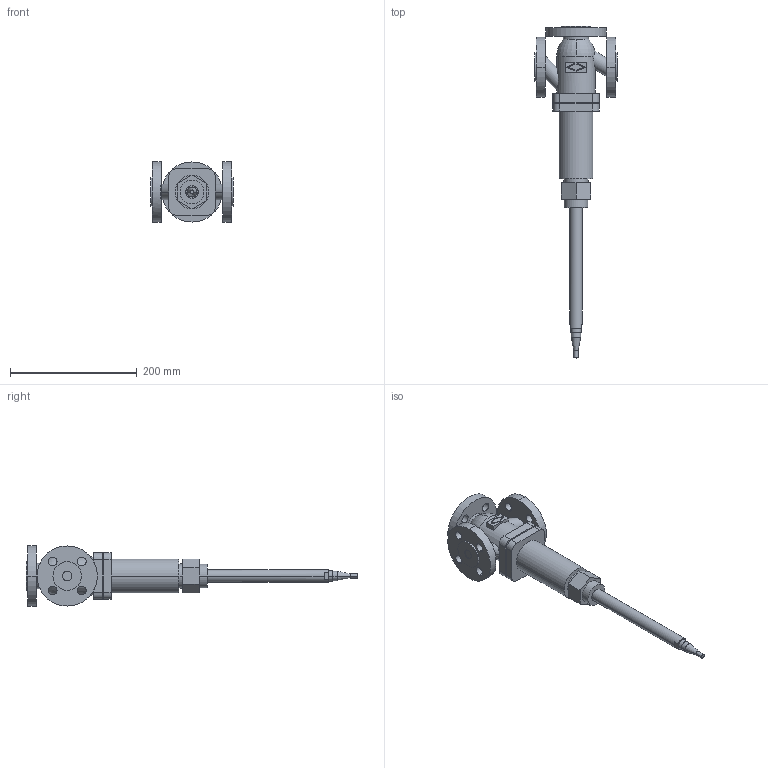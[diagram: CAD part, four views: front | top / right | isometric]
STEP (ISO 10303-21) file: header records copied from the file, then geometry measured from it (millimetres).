
FILE_DESCRIPTION( ( '' ), '1' );
FILE_NAME( 'F:/DE-SHS/TB/OR/04-Sonstiges/daten/files_3d/773-Mischventil/773-Mischventil_PN25/c000006168.stp', '2016-04-11T09:09:48', ( '' ), ( '' ), ' ', ' ', ' ' );
FILE_SCHEMA( ( 'CONFIG_CONTROL_DESIGN' ) );
Length unit declared in the file: millimetre
Products named in the file (1): 1
Bounding box: 130 x 524.04 x 95 mm (x, y, z)
Volume: 1061938.7 mm3; surface area: 137435.5 mm2
Topology: 1 solids, 1 shells, 139 faces, 341 edges, 226 vertices
Faces by surface type: cylinder 74, plane 61, torus 2, cone 2
Entity records: 4475 total; most frequent: CARTESIAN_POINT 946, DIRECTION 771, ORIENTED_EDGE 682, EDGE_CURVE 341, AXIS2_PLACEMENT_3D 299, VERTEX_POINT 226, EDGE_LOOP 185, LINE 173
